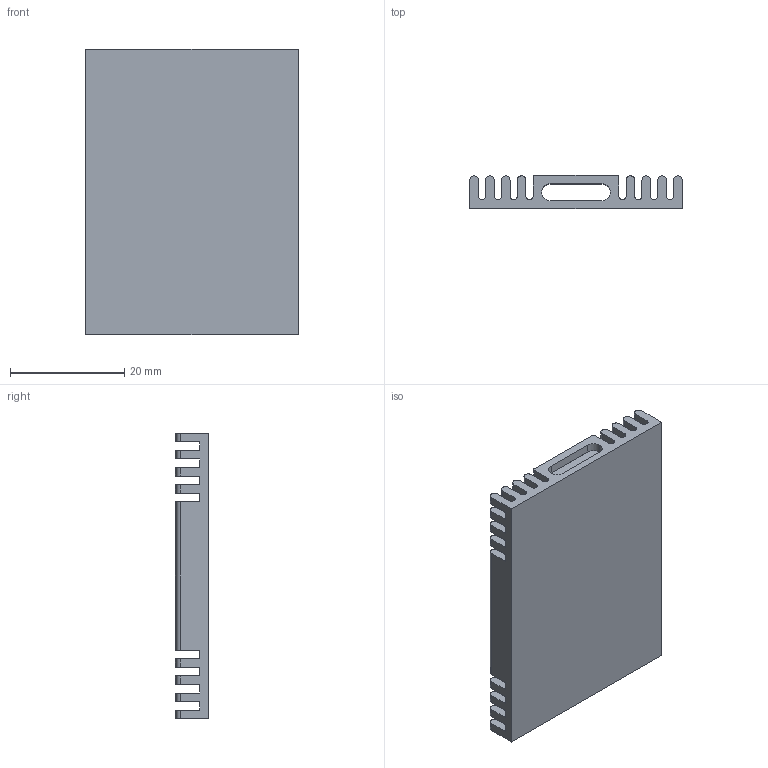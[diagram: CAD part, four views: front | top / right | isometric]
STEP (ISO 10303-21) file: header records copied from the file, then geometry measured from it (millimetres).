
FILE_DESCRIPTION (( 'STEP AP214' ), '1' );
FILE_NAME ('7G-0011B.STEP', '2022-07-27T00:59:37', ( '' ), ( '' ), 'SwSTEP 2.0', 'SolidWorks 2016', '' );
FILE_SCHEMA (( 'AUTOMOTIVE_DESIGN' ));
Length unit declared in the file: millimetre
Products named in the file (1): 7G-0011B
Bounding box: 37.2 x 5.8 x 50 mm (x, y, z)
Volume: 5815.7 mm3; surface area: 9009.4 mm2
Topology: 1 solids, 1 shells, 503 faces, 1423 edges, 906 vertices
Faces by surface type: plane 328, cylinder 175
Entity records: 21886 total; most frequent: DIRECTION 2941, ORIENTED_EDGE 2846, CARTESIAN_POINT 2833, EDGE_CURVE 1423, AXIS2_PLACEMENT_3D 1014, VECTOR 913, LINE 913, VERTEX_POINT 906
